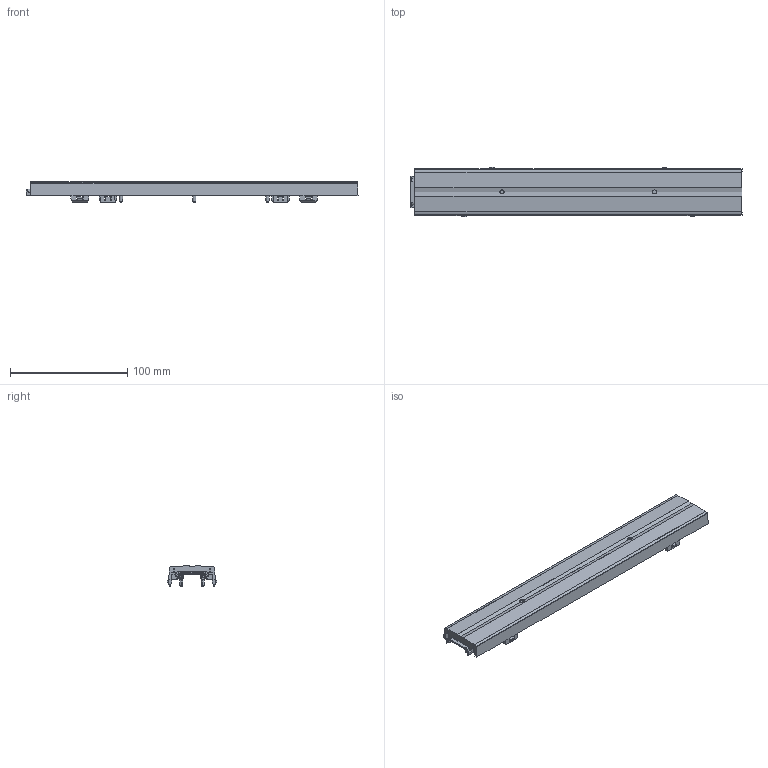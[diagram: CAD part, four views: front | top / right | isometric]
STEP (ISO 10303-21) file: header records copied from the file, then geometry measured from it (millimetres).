
FILE_DESCRIPTION(('CAx-IF Rec.Pracs.---Model Styling and Organization---1.2---2011-12-15','CAx-IF Rec.Pracs.---Geometric and Assembly Validation Properties---4.1---2014-06-16','CAx-IF Rec.Pracs.---PMI Polyline Presentation---2.0---2013-05-24'),'2;1');
FILE_NAME('021Y71BY02.stp','2019-12-12T13:52:41+01:00',(''),(''),'STEP Interface 4.3 by CT CoreTechnologie','3D_Evolution4.3 by CT CoreTechnologie','');
FILE_SCHEMA(('AP203_CONFIGURATION_CONTROLLED_3D_DESIGN_OF_MECHANICAL_PARTS_AND_ASSEMBLIES_MIM_LF'));
Length unit declared in the file: millimetre
Products named in the file (1): 021Y71BY02
Bounding box: 283.19 x 42.4 x 17.6 mm (x, y, z)
Volume: 60683.4 mm3; surface area: 34419.7 mm2
Topology: 1 solids, 1 shells, 717 faces, 1875 edges, 1149 vertices
Faces by surface type: plane 319, bspline 241, cylinder 157
Entity records: 61035 total; most frequent: CARTESIAN_POINT 17975, ORIENTED_EDGE 3686, PROPERTY_DEFINITION 3436, DIRECTION 3294, EDGE_CURVE 1843, SHAPE_REPRESENTATION 1719, SHAPE_DEFINITION_REPRESENTATION 1719, REPRESENTATION 1718
